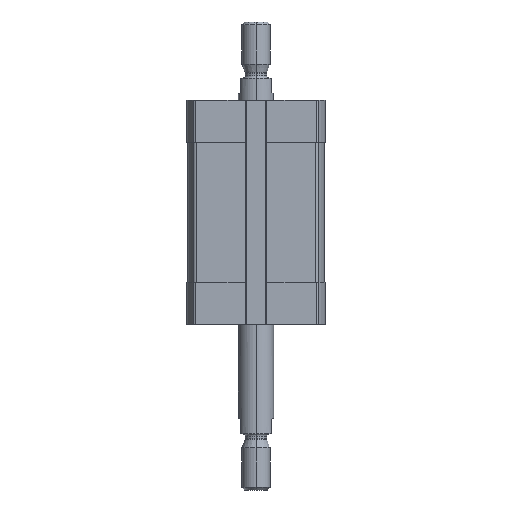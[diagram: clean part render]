
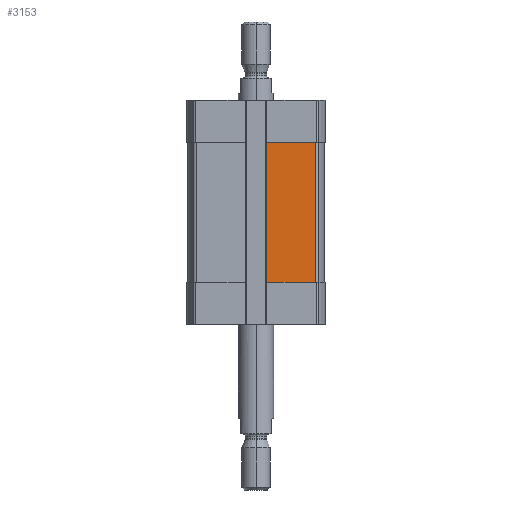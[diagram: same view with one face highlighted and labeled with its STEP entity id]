
A CAD part, left-side view. The second image highlights one B-rep face of the part: STEP entity #3153.
In plain terms, the highlighted planar face has unit normal (-1, 0, 0).
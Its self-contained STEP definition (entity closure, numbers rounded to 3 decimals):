
#52 = CARTESIAN_POINT ( 'NONE',  ( -19.5, -17.091, -52. ) ) ;
#77 = AXIS2_PLACEMENT_3D ( 'NONE', #2987, #3121, #3178 ) ;
#131 = PLANE ( 'NONE',  #77 ) ;
#362 = CARTESIAN_POINT ( 'NONE',  ( -19.5, -3.1, -52. ) ) ;
#812 = EDGE_CURVE ( 'NONE', #10762, #7753, #4989, .T. ) ;
#1033 = ORIENTED_EDGE ( 'NONE', *, *, #2361, .T. ) ;
#1038 = DIRECTION ( 'NONE',  ( 0., 0., 1. ) ) ;
#1455 = DIRECTION ( 'NONE',  ( 0., -1., 0. ) ) ;
#1805 = VECTOR ( 'NONE', #2146, 1000. ) ;
#1940 = CARTESIAN_POINT ( 'NONE',  ( -19.5, -3.1, -52. ) ) ;
#2146 = DIRECTION ( 'NONE',  ( 0., -1., 0. ) ) ;
#2264 = VERTEX_POINT ( 'NONE', #8513 ) ;
#2361 = EDGE_CURVE ( 'NONE', #5538, #2264, #7115, .T. ) ;
#2470 = CARTESIAN_POINT ( 'NONE',  ( -19.5, -3.1, -52. ) ) ;
#2987 = CARTESIAN_POINT ( 'NONE',  ( -19.5, -3.1, -52. ) ) ;
#3121 = DIRECTION ( 'NONE',  ( -1., 0., 0. ) ) ;
#3153 = ADVANCED_FACE ( 'NONE', ( #12481 ), #131, .T. ) ;
#3178 = DIRECTION ( 'NONE',  ( 0., 0., 1. ) ) ;
#3409 = ORIENTED_EDGE ( 'NONE', *, *, #812, .F. ) ;
#3523 = EDGE_CURVE ( 'NONE', #7753, #2264, #8335, .T. ) ;
#4151 = CARTESIAN_POINT ( 'NONE',  ( -19.5, -3.1, -12. ) ) ;
#4838 = EDGE_LOOP ( 'NONE', ( #10699, #3409, #10030, #1033 ) ) ;
#4989 = LINE ( 'NONE', #1940, #10293 ) ;
#5134 = CARTESIAN_POINT ( 'NONE',  ( -19.5, -3.1, -12. ) ) ;
#5538 = VERTEX_POINT ( 'NONE', #12396 ) ;
#5761 = VECTOR ( 'NONE', #1455, 1000. ) ;
#7115 = LINE ( 'NONE', #52, #13180 ) ;
#7254 = DIRECTION ( 'NONE',  ( 0., 0., 1. ) ) ;
#7753 = VERTEX_POINT ( 'NONE', #4151 ) ;
#8335 = LINE ( 'NONE', #5134, #1805 ) ;
#8513 = CARTESIAN_POINT ( 'NONE',  ( -19.5, -17.091, -12. ) ) ;
#10030 = ORIENTED_EDGE ( 'NONE', *, *, #13421, .T. ) ;
#10293 = VECTOR ( 'NONE', #1038, 1000. ) ;
#10699 = ORIENTED_EDGE ( 'NONE', *, *, #3523, .F. ) ;
#10762 = VERTEX_POINT ( 'NONE', #362 ) ;
#11777 = LINE ( 'NONE', #2470, #5761 ) ;
#12396 = CARTESIAN_POINT ( 'NONE',  ( -19.5, -17.091, -52. ) ) ;
#12481 = FACE_OUTER_BOUND ( 'NONE', #4838, .T. ) ;
#13180 = VECTOR ( 'NONE', #7254, 1000. ) ;
#13421 = EDGE_CURVE ( 'NONE', #10762, #5538, #11777, .T. ) ;
